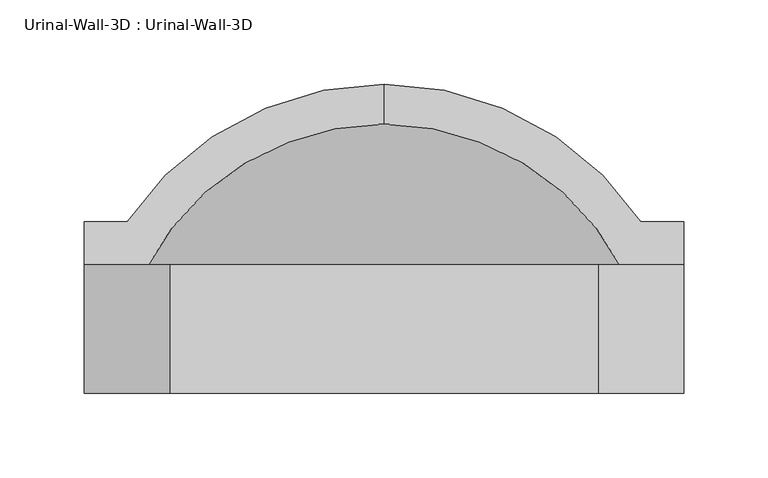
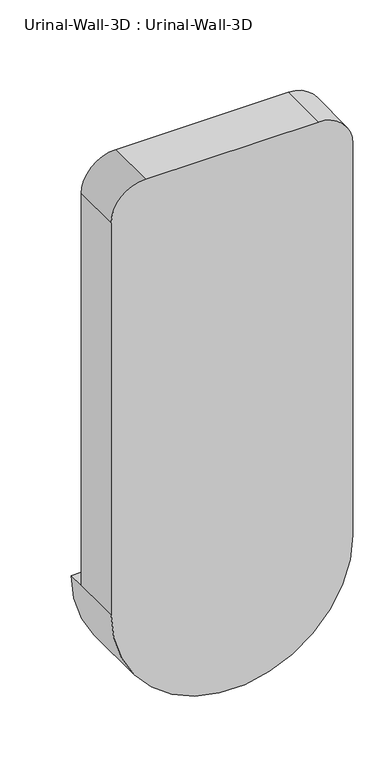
"""IFC4 building model written with IfcOpenShell, lengths in millimetres: flow terminal geometry, Urinal-Wall-3D : Urinal-Wall-3D."""

from ifc_helpers import new_model, si_unit, point, frame, origin, place, context, project, spatial, polyline, circle_curve, ellipse_curve, trimmed, source, transform, mapped, element, save
from ifc_brep_helpers import plane_surface, cylinder_surface, revolved_surface, advanced_brep


def urinal_wall_3d_urinal_wall_3d_70306c78(model_context):
    return source(origin(), model_context, "Body", "AdvancedBrep", [
        advanced_brep(
        [(-109.0745999, 260.9495048, 609.6), (-109.0745999, 237.2322043, 609.6), (43.3254001, 124.6581063, 609.6), (43.3254001, 153.9875, 609.6), (68.7254001, 153.9875, 609.6), (68.7254001, 179.3875, 609.6), (43.3254001, 179.3875, 609.6), (-261.4745999, 179.3875, 609.6), (-286.8745999, 179.3875, 609.6), (-286.8745999, 153.9875, 609.6), (-261.4745999, 153.9875, 609.6), (-261.4745999, 124.6581063, 609.6), (-261.4745999, 90.4875, 609.6), (43.3254001, 90.4875, 609.6), (-286.8745999, 77.7875, 609.6), (68.7254001, 77.7875, 609.6), (68.7254001, 77.7875, 1219.2), (17.9254001, 77.7875, 1270.0), (-236.0745999, 77.7875, 1270.0), (-286.8745999, 77.7875, 1219.2), (43.3254001, 153.9875, 1168.4), (-7.4745999, 153.9875, 1219.2), (-210.6745999, 153.9875, 1219.2), (-261.4745999, 153.9875, 1168.4), (-286.8745999, 153.9875, 1219.2), (-236.0745999, 153.9875, 1270.0), (17.9254001, 153.9875, 1270.0), (68.7254001, 153.9875, 1219.2), (43.3254001, 90.4875, 1168.4), (-7.4745999, 90.4875, 1219.2), (-210.6745999, 90.4875, 1219.2), (-261.4745999, 90.4875, 1168.4)],
        [
            (0, 1),
            (1, 2, circle_curve(frame((-109.0745999, 77.7875, 609.6), z_axis=(0.0, 0.0, -1.0), x_axis=(1.0, 0.0, 0.0)), 159.4447043)),
            (2, 3),
            (3, 4),
            (4, 5),
            (5, 6),
            (6, 0, circle_curve(frame((-109.0745999, 77.7875, 609.6), z_axis=(0.0, 0.0, 1.0), x_axis=(1.0, 0.0, 0.0)), 183.1620048)),
            (0, 7, circle_curve(frame((-109.0745999, 77.7875, 609.6), z_axis=(0.0, 0.0, 1.0), x_axis=(-1.0, 0.0, 0.0)), 183.1620048)),
            (7, 8),
            (8, 9),
            (9, 10),
            (10, 11),
            (11, 1, circle_curve(frame((-109.0745999, 77.7875, 609.6), z_axis=(0.0, 0.0, -1.0), x_axis=(-1.0, 0.0, 0.0)), 159.4447043)),
            (11, 2, circle_curve(frame((-109.0745999, 124.6581063, 609.6), z_axis=(0.0, -1.0, 0.0), x_axis=(1.0, 0.0, 0.0)), 152.4)),
            (11, 12),
            (12, 13, circle_curve(frame((-109.0745999, 90.4875, 609.6), z_axis=(0.0, -1.0, 0.0), x_axis=(1.0, 0.0, 0.0)), 152.4)),
            (13, 2),
            (14, 15, circle_curve(frame((-109.0745999, 77.7875, 609.6), z_axis=(0.0, -1.0, 0.0), x_axis=(1.0, 0.0, 0.0)), 177.8)),
            (15, 16),
            (16, 17, circle_curve(frame((17.9254001, 77.7875, 1219.2), z_axis=(0.0, -1.0, 0.0), x_axis=(-1.0, 0.0, 0.0)), 50.8)),
            (17, 18),
            (18, 19, circle_curve(frame((-236.0745999, 77.7875, 1219.2), z_axis=(0.0, -1.0, 0.0), x_axis=(-1.0, 0.0, 0.0)), 50.8)),
            (19, 14),
            (14, 9),
            (8, 5, circle_curve(frame((-109.0745999, 179.3875, 609.6), z_axis=(0.0, -1.0, 0.0), x_axis=(1.0, 0.0, 0.0)), 177.8)),
            (4, 15),
            (7, 6, circle_curve(frame((-109.0745999, 179.3875, 609.6), z_axis=(0.0, -1.0, 0.0), x_axis=(1.0, 0.0, 0.0)), 152.4)),
            (3, 20),
            (20, 21, circle_curve(frame((-7.4745999, 153.9875, 1168.4), z_axis=(0.0, -1.0, 0.0), x_axis=(-1.0, 0.0, 0.0)), 50.8)),
            (21, 22),
            (22, 23, circle_curve(frame((-210.6745999, 153.9875, 1168.4), z_axis=(0.0, -1.0, 0.0), x_axis=(-1.0, 0.0, 0.0)), 50.8)),
            (23, 10),
            (9, 24),
            (24, 25, circle_curve(frame((-236.0745999, 153.9875, 1219.2), z_axis=(0.0, 1.0, 0.0), x_axis=(-1.0, 0.0, 0.0)), 50.8)),
            (25, 26),
            (26, 27, circle_curve(frame((17.9254001, 153.9875, 1219.2), z_axis=(0.0, 1.0, 0.0), x_axis=(-1.0, 0.0, 0.0)), 50.8)),
            (27, 4),
            (13, 28),
            (28, 20),
            (28, 29, circle_curve(frame((-7.4745999, 90.4875, 1168.4), z_axis=(0.0, -1.0, 0.0), x_axis=(-1.0, 0.0, 0.0)), 50.8)),
            (29, 21),
            (29, 30),
            (30, 22),
            (30, 31, circle_curve(frame((-210.6745999, 90.4875, 1168.4), z_axis=(0.0, -1.0, 0.0), x_axis=(-1.0, 0.0, 0.0)), 50.8)),
            (31, 23),
            (31, 12),
            (19, 24),
            (18, 25),
            (17, 26),
            (16, 27),
        ],
        [
            plane_surface(frame((-109.0745999, 366.9979173, 609.6), z_axis=(0.0, 0.0, 1.0), x_axis=(1.0, 0.0, 0.0))),
            plane_surface(frame((-109.0745999, 366.9979173, 609.6), z_axis=(0.0, 0.0, 1.0), x_axis=(-1.0, 0.0, 0.0))),
            revolved_surface(trimmed(ellipse_curve(frame((-109.0745999, 77.7875, 609.6), z_axis=(0.0, 0.0, -1.0), x_axis=(1.0, 0.0, 0.0)), 159.4447043, 159.4447043), [point((-109.0745999, 237.2322043, 609.6))], [point((43.3254001, 124.6581063, 609.6))], True, "CARTESIAN"), (-109.0745999, 366.9979173, 609.6), (0.0, 1.0, 0.0)),
            revolved_surface(polyline([(43.32540010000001, 124.65810629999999, 609.6), (43.32540010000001, 90.48750000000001, 609.6)]), (-109.0745999, 366.9979173, 609.6), (0.0, 1.0, 0.0)),
            plane_surface(frame((-109.0745999, 77.7875, 609.6), z_axis=(0.0, -1.0, 0.0), x_axis=(1.0, 0.0, 0.0))),
            cylinder_surface(frame((-109.0745999, 366.9979173, 609.6), z_axis=(0.0, 1.0, 0.0), x_axis=(1.0, 0.0, 0.0)), 177.8),
            plane_surface(frame((-109.0745999, 179.3875, 609.6), z_axis=(0.0, 1.0, 0.0), x_axis=(1.0, 0.0, 0.0))),
            revolved_surface(trimmed(ellipse_curve(frame((-109.0745999, 77.7875, 609.6), z_axis=(0.0, 0.0, 1.0), x_axis=(1.0, 0.0, 0.0)), 183.1620048, 183.1620048), [point((43.3254001, 179.3875, 609.6))], [point((-109.0745999, 260.9495048, 609.6))], True, "CARTESIAN"), (-109.0745999, 366.9979173, 609.6), (0.0, 1.0, 0.0)),
            plane_surface(frame((43.3254001, 153.9875, 609.6), z_axis=(0.0, 1.0, 0.0), x_axis=(0.0, 0.0, 1.0))),
            plane_surface(frame((43.3254001, 153.9875, 609.6), z_axis=(-1.0, 0.0, 0.0), x_axis=(0.0, -1.0, 0.0))),
            revolved_surface(polyline([(-58.2745999, 90.4875, 1168.4), (-58.2745999, 153.9875, 1168.4)]), (-7.4745999, 77.7875, 1168.4), (0.0, -1.0, 0.0)),
            plane_surface(frame((-7.4745999, 153.9875, 1219.2), z_axis=(0.0, 0.0, -1.0), x_axis=(0.0, -1.0, 0.0))),
            revolved_surface(polyline([(-261.4745999, 90.4875, 1168.4), (-261.4745999, 153.9875, 1168.4)]), (-210.6745999, 77.7875, 1168.4), (0.0, -1.0, 0.0)),
            plane_surface(frame((-261.4745999, 153.9875, 1168.4), z_axis=(1.0, 0.0, 0.0), x_axis=(0.0, -1.0, 0.0))),
            plane_surface(frame((-286.8745999, 153.9875, 609.6), z_axis=(-1.0, 0.0, 0.0), x_axis=(0.0, -1.0, 0.0))),
            cylinder_surface(frame((-236.0745999, 77.7875, 1219.2), z_axis=(0.0, 1.0, 0.0), x_axis=(-1.0, 0.0, 0.0)), 50.8),
            plane_surface(frame((-236.0745999, 153.9875, 1270.0), z_axis=(0.0, 0.0, 1.0), x_axis=(0.0, -1.0, 0.0))),
            cylinder_surface(frame((17.9254001, 77.7875, 1219.2), z_axis=(0.0, 1.0, 0.0), x_axis=(-1.0, 0.0, 0.0)), 50.8),
            plane_surface(frame((68.7254001, 153.9875, 1219.2), z_axis=(1.0, 0.0, 0.0), x_axis=(0.0, -1.0, 0.0))),
            plane_surface(frame((43.3254001, 90.4875, 609.6), z_axis=(0.0, 1.0, 0.0), x_axis=(0.0, 0.0, -1.0))),
        ],
        [
            (0, [[1, 2, 3, 4, 5, 6, 7]]),
            (1, [[-1, 8, 9, 10, 11, 12, 13]]),
            (2, [[-2, -13, 14]]),
            (3, [[-14, 15, 16, 17]]),
            (4, [[18, 19, 20, 21, 22, 23]]),
            (5, [[-18, 24, -10, 25, -5, 26]]),
            (6, [[-6, -25, -9, 27]]),
            (7, [[-7, -27, -8]]),
            (8, [[28, 29, 30, 31, 32, -11, 33, 34, 35, 36, 37, -4]]),
            (9, [[-28, -3, -17, 38, 39]]),
            (10, [[-29, -39, 40, 41]]),
            (11, [[-30, -41, 42, 43]]),
            (12, [[-31, -43, 44, 45]]),
            (13, [[-32, -45, 46, -15, -12]]),
            (14, [[-33, -24, -23, 47]]),
            (15, [[-34, -47, -22, 48]]),
            (16, [[-35, -48, -21, 49]]),
            (17, [[-36, -49, -20, 50]]),
            (18, [[-37, -50, -19, -26]]),
            (19, [[-16, -46, -44, -42, -40, -38]]),
        ],
    ),
    ])


if __name__ == "__main__":
    model = new_model("IFC4")
    model_context = context("Model", 3, world=origin())
    ifc_project = project(units=[si_unit("LENGTHUNIT", "METRE", prefix="MILLI")], contexts=[model_context])
    site = spatial("IfcSite", under=ifc_project)
    building = spatial("IfcBuilding", under=site)
    placement = place(None, origin())
    urinal_wall_3d_urinal_wall_3d_shape = urinal_wall_3d_urinal_wall_3d_70306c78(model_context)
    element("IfcFlowTerminal", 1, ObjectType="Urinal-Wall-3D : Urinal-Wall-3D", at=placement, inside=building, context=model_context, shape_type="MappedRepresentation", body=[
        mapped(urinal_wall_3d_urinal_wall_3d_shape, transform((0.0, 0.0, 0.0), x_axis=(1.0, 0.0, 0.0), y_axis=(0.0, 1.0, 0.0), z_axis=(0.0, 0.0, 1.0))),
    ])
    save(model, "model.ifc")
